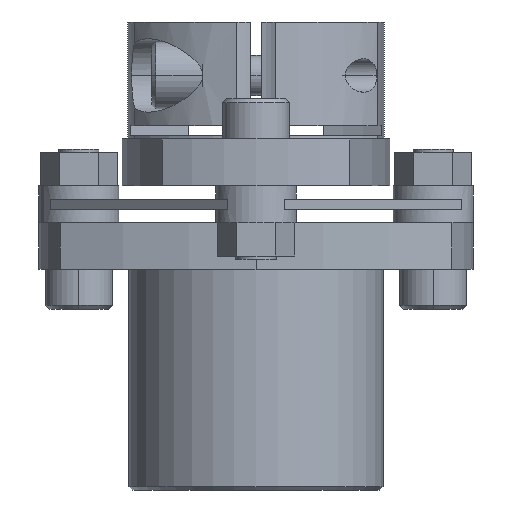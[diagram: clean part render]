
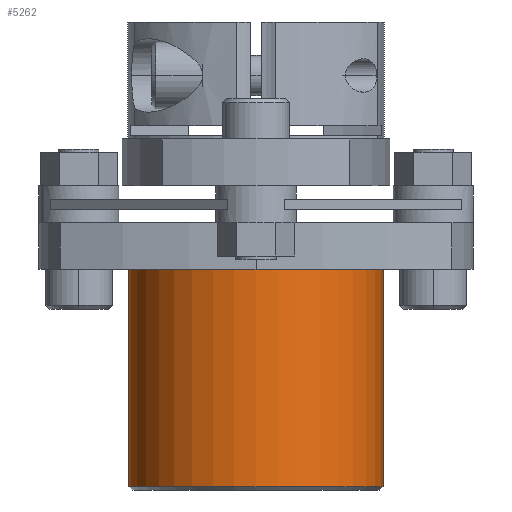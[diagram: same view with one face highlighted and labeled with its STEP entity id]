
A CAD part, front view. The second image highlights one B-rep face of the part: STEP entity #5262.
In plain terms, the highlighted cylindrical face has radius 19 mm (diameter 38 mm), a partial arc.
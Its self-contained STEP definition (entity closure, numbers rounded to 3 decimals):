
#962=CARTESIAN_POINT('',(19.,0.,-42.25));
#963=VERTEX_POINT('',#962);
#964=CARTESIAN_POINT('',(19.,0.,-9.75));
#965=VERTEX_POINT('',#964);
#966=CARTESIAN_POINT('',(19.,0.,-42.25));
#967=DIRECTION('',(0.0,0.0,1.0));
#968=VECTOR('',#967,32.5);
#969=LINE('',#966,#968);
#970=EDGE_CURVE('',#963,#965,#969,.T.);
#972=CARTESIAN_POINT('',(-19.,0.,-42.25));
#973=VERTEX_POINT('',#972);
#981=CARTESIAN_POINT('',(-19.,0.,-9.75));
#982=VERTEX_POINT('',#981);
#983=CARTESIAN_POINT('',(-19.,0.,-9.75));
#984=DIRECTION('',(0.0,0.0,-1.0));
#985=VECTOR('',#984,32.5);
#986=LINE('',#983,#985);
#987=EDGE_CURVE('',#982,#973,#986,.T.);
#1027=CARTESIAN_POINT('',(0.,0.0,-42.25));
#1028=DIRECTION('',(0.0,0.0,-1.0));
#1029=DIRECTION('',(-1.0,0.0,0.0));
#1030=AXIS2_PLACEMENT_3D('',#1027,#1028,#1029);
#1031=CIRCLE('',#1030,19.0);
#1032=EDGE_CURVE('',#963,#973,#1031,.T.);
#5245=CARTESIAN_POINT('',(0.,0.0,-22.75));
#5246=DIRECTION('',(0.0,0.0,1.0));
#5247=DIRECTION('',(1.0,0.0,0.0));
#5248=AXIS2_PLACEMENT_3D('',#5245,#5246,#5247);
#5249=CYLINDRICAL_SURFACE('',#5248,19.0);
#5250=ORIENTED_EDGE('',*,*,#970,.T.);
#5251=CARTESIAN_POINT('',(0.,0.0,-9.75));
#5252=DIRECTION('',(0.0,0.0,1.0));
#5253=DIRECTION('',(1.0,0.0,0.0));
#5254=AXIS2_PLACEMENT_3D('',#5251,#5252,#5253);
#5255=CIRCLE('',#5254,19.0);
#5256=EDGE_CURVE('',#982,#965,#5255,.T.);
#5257=ORIENTED_EDGE('',*,*,#5256,.F.);
#5258=ORIENTED_EDGE('',*,*,#987,.T.);
#5259=ORIENTED_EDGE('',*,*,#1032,.F.);
#5260=EDGE_LOOP('',(#5250,#5257,#5258,#5259));
#5261=FACE_OUTER_BOUND('',#5260,.T.);
#5262=ADVANCED_FACE('',(#5261),#5249,.T.);
